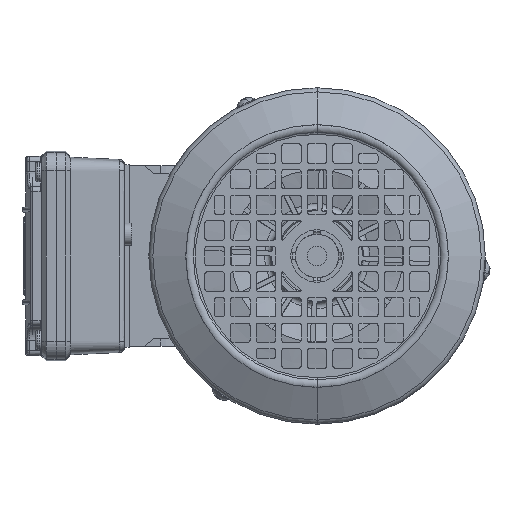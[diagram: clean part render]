
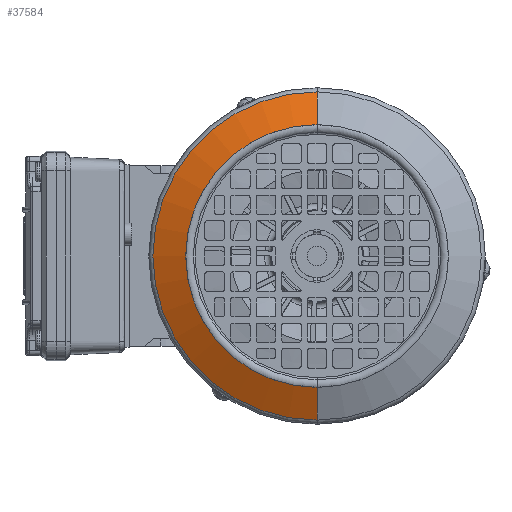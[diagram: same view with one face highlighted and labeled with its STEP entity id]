
A CAD part, left-side view. The second image highlights one B-rep face of the part: STEP entity #37584.
In plain terms, the highlighted conical face has half-angle 64 degrees and reference radius 67.315 mm.
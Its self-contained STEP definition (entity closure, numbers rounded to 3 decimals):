
#2085 = EDGE_CURVE ( 'NONE', #76719, #80979, #68922, .T. ) ;
#2231 = DIRECTION ( 'NONE',  ( -0.899, 0.438, 0. ) ) ;
#7690 = ORIENTED_EDGE ( 'NONE', *, *, #61511, .T. ) ;
#13641 = DIRECTION ( 'NONE',  ( 0., 1., 0. ) ) ;
#13686 = EDGE_LOOP ( 'NONE', ( #7690, #60381, #110699, #34805 ) ) ;
#14588 = VECTOR ( 'NONE', #2231, 1000. ) ;
#16466 = CARTESIAN_POINT ( 'NONE',  ( 67.315, 6.802, 0. ) ) ;
#22714 = EDGE_CURVE ( 'NONE', #29969, #80979, #60279, .T. ) ;
#27201 = AXIS2_PLACEMENT_3D ( 'NONE', #42575, #102325, #51176 ) ;
#29969 = VERTEX_POINT ( 'NONE', #33613 ) ;
#30918 = DIRECTION ( 'NONE',  ( 0., 1., 0. ) ) ;
#33613 = CARTESIAN_POINT ( 'NONE',  ( 53.887, 0.253, 0. ) ) ;
#34805 = ORIENTED_EDGE ( 'NONE', *, *, #46337, .F. ) ;
#37299 = LINE ( 'NONE', #44891, #14588 ) ;
#37584 = ADVANCED_FACE ( 'NONE', ( #89013 ), #86345, .T. ) ;
#42575 = CARTESIAN_POINT ( 'NONE',  ( 0., 0.253, 0. ) ) ;
#44891 = CARTESIAN_POINT ( 'NONE',  ( -67.315, 6.802, 0. ) ) ;
#46337 = EDGE_CURVE ( 'NONE', #80580, #76719, #37299, .T. ) ;
#48157 = DIRECTION ( 'NONE',  ( -1., 0., 0. ) ) ;
#51072 = CARTESIAN_POINT ( 'NONE',  ( 67.315, 6.802, 0. ) ) ;
#51176 = DIRECTION ( 'NONE',  ( -1., 0., 0. ) ) ;
#56773 = CARTESIAN_POINT ( 'NONE',  ( 0., 6.802, 0. ) ) ;
#58495 = AXIS2_PLACEMENT_3D ( 'NONE', #56773, #30918, #48157 ) ;
#60279 = LINE ( 'NONE', #51072, #103031 ) ;
#60381 = ORIENTED_EDGE ( 'NONE', *, *, #22714, .T. ) ;
#61511 = EDGE_CURVE ( 'NONE', #80580, #29969, #95393, .T. ) ;
#64856 = CARTESIAN_POINT ( 'NONE',  ( 0., 6.802, 0. ) ) ;
#68922 = CIRCLE ( 'NONE', #110916, 67.315 ) ;
#73402 = DIRECTION ( 'NONE',  ( -1., 0., 0. ) ) ;
#76719 = VERTEX_POINT ( 'NONE', #88746 ) ;
#80580 = VERTEX_POINT ( 'NONE', #109989 ) ;
#80979 = VERTEX_POINT ( 'NONE', #16466 ) ;
#86345 = CONICAL_SURFACE ( 'NONE', #58495, 67.315, 1.117 ) ;
#88746 = CARTESIAN_POINT ( 'NONE',  ( -67.315, 6.802, 0. ) ) ;
#89013 = FACE_OUTER_BOUND ( 'NONE', #13686, .T. ) ;
#95393 = CIRCLE ( 'NONE', #27201, 53.887 ) ;
#102325 = DIRECTION ( 'NONE',  ( 0., 1., 0. ) ) ;
#103031 = VECTOR ( 'NONE', #110826, 1000. ) ;
#109989 = CARTESIAN_POINT ( 'NONE',  ( -53.887, 0.253, 0. ) ) ;
#110699 = ORIENTED_EDGE ( 'NONE', *, *, #2085, .F. ) ;
#110826 = DIRECTION ( 'NONE',  ( 0.899, 0.438, 0. ) ) ;
#110916 = AXIS2_PLACEMENT_3D ( 'NONE', #64856, #13641, #73402 ) ;
